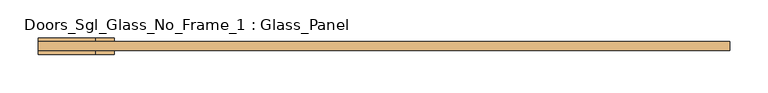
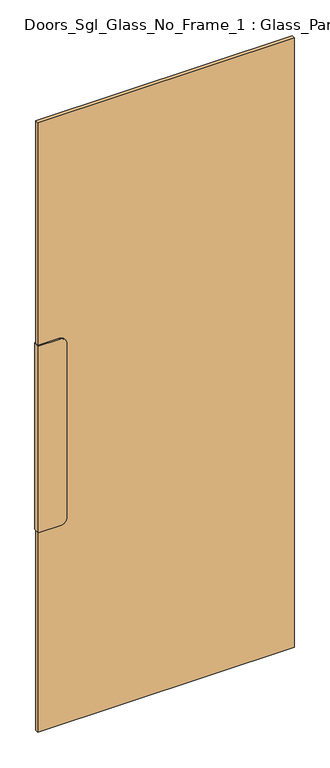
"""IFC4 building model written with IfcOpenShell, lengths in millimetres: door geometry, Doors_Sgl_Glass_No_Frame_1 : Glass_Panel."""

from ifc_helpers import new_model, si_unit, point, frame, frame_2d, origin, origin_with_axes, place, context, project, spatial, polyline, circle_curve, trimmed, segment, composite_curve, outline, extrude, source, transform, mapped, element, save


def doors_sgl_glass_no_frame_1_glass_panel_9f895268(model_context):
    return source(origin(), model_context, "Body", "SweptSolid", [
        extrude(outline(composite_curve([segment(polyline([(1450.0, -379.52), (1450.0, -454.52), (750.0, -454.52), (750.0, -379.52)]), True, "CONTINUOUS"), segment(trimmed(circle_curve(frame_2d((775.0, -379.52)), 25.0), [point((750.0, -379.52))], [point((775.0, -354.52))], False, "CARTESIAN"), True, "CONTINUOUS"), segment(polyline([(775.0, -354.52), (1425.0, -354.52)]), True, "CONTINUOUS"), segment(trimmed(circle_curve(frame_2d((1425.0, -379.52)), 25.0), [point((1425.0, -354.52))], [point((1450.0, -379.52))], False, "CARTESIAN"), True, "CONTINUOUS")], self_intersect=False)), frame((0.0, -55.0, 0.0), z_axis=(0.0, 1.0, 0.0), x_axis=(0.0, 0.0, 1.0)), (0.0, 0.0, 1.0), 22.0),
        extrude(outline(polyline([(454.52, -50.0), (-454.52, -50.0), (-454.52, -38.0), (454.52, -38.0), (454.52, -50.0)])), origin_with_axes(), (0.0, 0.0, 1.0), 2285.0),
    ])


if __name__ == "__main__":
    model = new_model("IFC4")
    model_context = context("Model", 3, world=origin())
    ifc_project = project(units=[si_unit("LENGTHUNIT", "METRE", prefix="MILLI")], contexts=[model_context])
    site = spatial("IfcSite", under=ifc_project)
    building = spatial("IfcBuilding", under=site)
    placement = place(None, origin())
    doors_sgl_glass_no_frame_1_glass_panel_shape = doors_sgl_glass_no_frame_1_glass_panel_9f895268(model_context)
    element("IfcDoor", 1, ObjectType="Doors_Sgl_Glass_No_Frame_1 : Glass_Panel", at=placement, inside=building, context=model_context, shape_type="MappedRepresentation", body=[
        mapped(doors_sgl_glass_no_frame_1_glass_panel_shape, transform((0.0, 0.0, 0.0), x_axis=(1.0, 0.0, 0.0), y_axis=(0.0, 1.0, 0.0), z_axis=(0.0, 0.0, 1.0))),
    ])
    save(model, "model.ifc")
